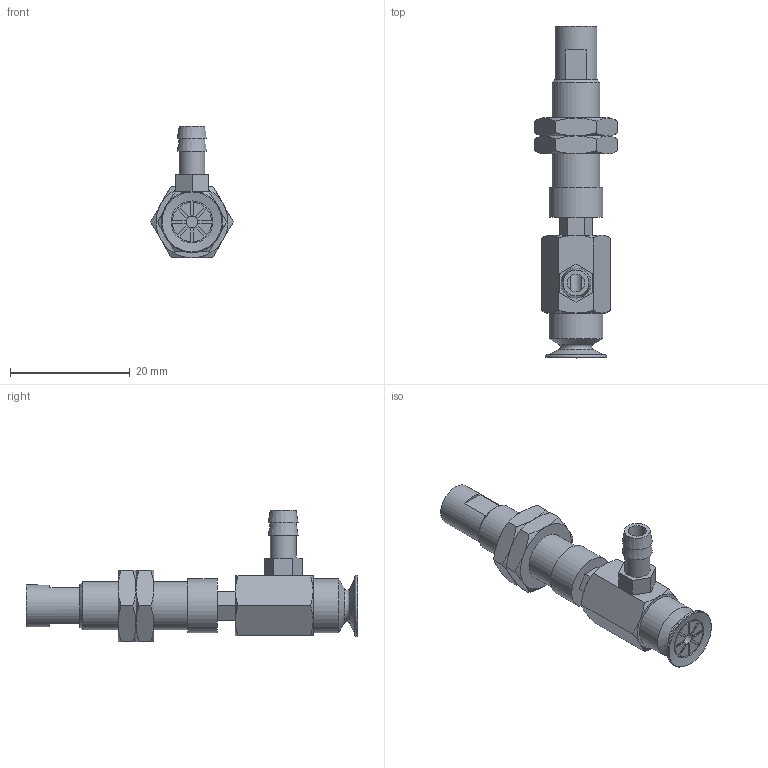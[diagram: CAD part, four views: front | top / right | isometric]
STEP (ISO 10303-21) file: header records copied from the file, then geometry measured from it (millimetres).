
FILE_DESCRIPTION(('STEP AP203'),'1');
FILE_NAME('-T.stp','2025-03-13T02:56:02',(' '),(' '),'Spatial InterOp 3D',' ',' ');
FILE_SCHEMA(('CONFIG_CONTROL_DESIGN'));
Length unit declared in the file: millimetre
Products named in the file (7): BNABPAYH-10B-3-※-T; NAPATH-10A-3--M; NAPATH-10A-3--F; Nut-10A-S; CONNECTOR-10A-3-PA; CONNECTOR-10A-3-T-PA; BPAG-10B-※
Assembly tree (7 placements, depth 2):
  BNABPAYH-10B-3-※-T
    NAPATH-10A-3--M
    NAPATH-10A-3--F
    Nut-10A-S  x2
    CONNECTOR-10A-3-PA
    CONNECTOR-10A-3-T-PA
    BPAG-10B-※
Bounding box: 13.86 x 55.5 x 22 mm (x, y, z)
Volume: 3582.9 mm3; surface area: 4529.4 mm2
Topology: 7 solids, 7 shells, 191 faces, 435 edges, 271 vertices
Faces by surface type: plane 99, cone 54, cylinder 27, torus 11
Full cylindrical faces by diameter (mm): 2 x2, 3 x1, 4 x2, 4.134 x2, 4.3 x1, 5 x2, 6 x2, 7 x2, 7.188 x2, 8 x1, 9 x2
Entity records: 5044 total; most frequent: CARTESIAN_POINT 1094, DIRECTION 756, ORIENTED_EDGE 670, EDGE_CURVE 335, AXIS2_PLACEMENT_3D 299, EDGE_LOOP 236, VERTEX_POINT 235, FACE_OUTER_BOUND 197
